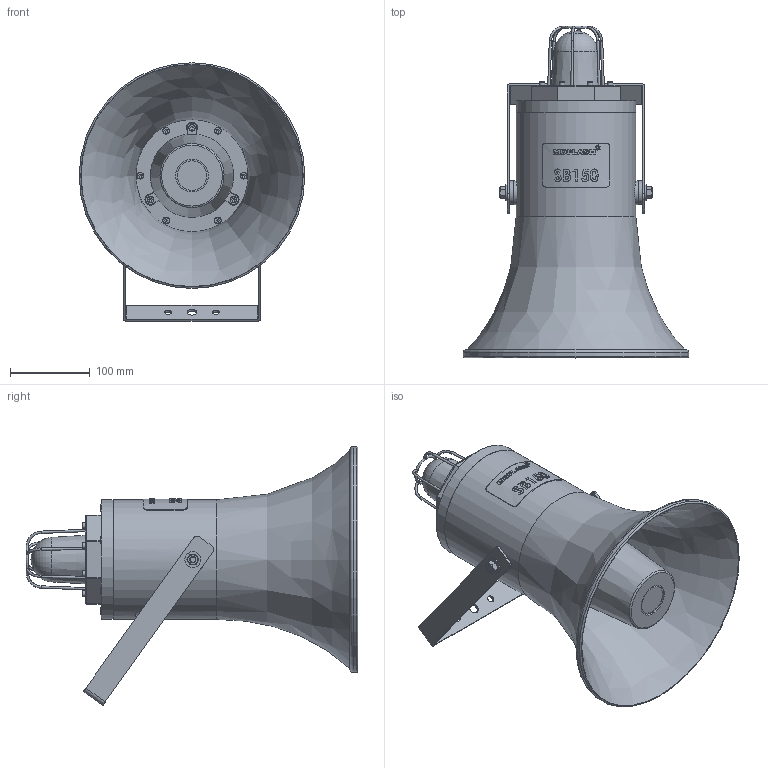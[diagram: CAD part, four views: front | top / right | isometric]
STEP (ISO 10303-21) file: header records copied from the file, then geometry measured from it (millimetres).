
FILE_DESCRIPTION (( 'STEP AP214' ), '1' );
FILE_NAME ('Moflash SB150 (guard).STEP', '2015-09-14T11:04:19', ( '' ), ( '' ), 'SwSTEP 2.0', 'SolidWorks 2015', '' );
FILE_SCHEMA (( 'AUTOMOTIVE_DESIGN' ));
Length unit declared in the file: millimetre
Products named in the file (1): Moflash SB150 (guard)
Bounding box: 283 x 416 x 324.05 mm (x, y, z)
Volume: 4793961.5 mm3; surface area: 602267.8 mm2
Topology: 41 solids, 41 shells, 983 faces, 2235 edges, 1414 vertices
Faces by surface type: plane 547, cylinder 184, bspline 111, cone 83, torus 54, sphere 4
Full cylindrical faces by diameter (mm): 3 x6, 3.9 x8, 4 x8, 4.5 x8, 5 x18, 5.4 x2, 5.5 x3, 5.55 x6, 6 x2, 6.8 x2, 7 x8, 8 x10, 8.5 x23, 8.8 x6, 12 x1, 14 x3, 20 x4, 30 x4, 37 x1, 41 x1, 70.5 x1, 77.5 x1, 110 x1, 150 x2, 283 x1
Entity records: 56108 total; most frequent: CARTESIAN_POINT 24846, DIRECTION 3895, ORIENTED_EDGE 3786, EDGE_CURVE 1893, AXIS2_PLACEMENT_3D 1535, EDGE_LOOP 1392, VERTEX_POINT 1335, FACE_OUTER_BOUND 1170
